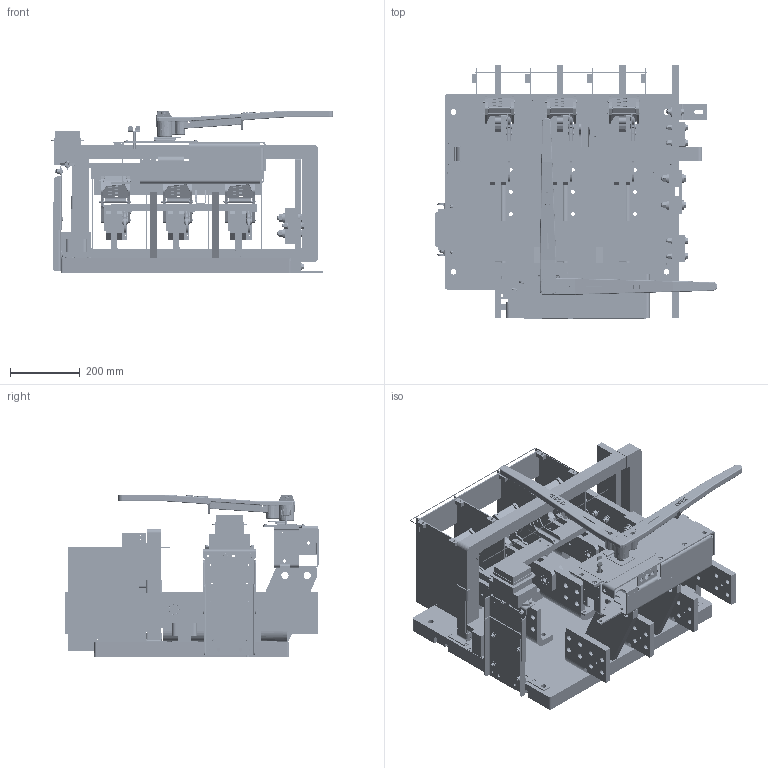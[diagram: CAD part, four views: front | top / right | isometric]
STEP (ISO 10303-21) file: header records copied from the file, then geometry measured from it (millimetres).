
FILE_DESCRIPTION(/* description */ (''),/* implementation_level */ '2;1');
FILE_NAME(/* name */ 'H:\switches\3d-templates\catalog-switches-iges-files\CATALOG-VL3612G6.stp',/* time_stamp */ '2022-03-23T15:35:13-05:00',/* author */ ('MKingston'),/* organization */ (''),/* preprocessor_version */ 'ST-DEVELOPER v18.1',/* originating_system */ 'Autodesk Inventor 2022',/* authorisation */ '');
FILE_SCHEMA (('AUTOMOTIVE_DESIGN { 1 0 10303 214 3 1 1 }'));
Products named in the file (92): vl3612; 277; 671-dx; 671-cx; 671-EX; CATALOG-59-qd-arc-chute-assy; 50-ql; 50-qr; 59-qd-f; 363-a; 363-b; 59-QG; Bolted Connection; ANSI B18.6.3 - 8 - 32 x 3 1/2 SR HMS; ANSI B18.2.2 - 8 - 32, HMSNI; Bolted Connection_1; ANSI B18.6.3 - 8 - 32 x 1/2 SR HMS; Bolted Connection_2; ANSI B18.6.3 - 8 - 32 x 5/8 SR HMS; Bolted Connection_3; Bolted Connection_4; Unbrako - 1/4 x 1 1/2(2); CATALOG-3000amp-blade-assy; 671-A; 671-B; 69-gc3; 67-fc3; 70-M; 67-j; ANSI/ASM B18.1.1 - 1/4 x 3/4; ANSI/ASM B18.1.1 - 3/16 x 11/16; 235-b; 230-a; 255-z; 246-a; 255-bha; 255-c; 178-c; 178-b; 3000-VL-NEUTRAL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
Assembly tree (208 placements, depth 4):
  vl3612
    277
    671-dx  x3
    671-cx  x3
    671-EX  x3
    CATALOG-59-qd-arc-chute-assy  x3
      50-ql
      50-qr
      59-qd-f
      363-a
      363-b
      59-QG
      Bolted Connection
        ANSI B18.6.3 - 8 - 32 x 3 1/2 SR HMS  x2
        ANSI B18.2.2 - 8 - 32, HMSNI  x2
      Bolted Connection_1
        ANSI B18.6.3 - 8 - 32 x 1/2 SR HMS  x2
      Bolted Connection_2
        ANSI B18.6.3 - 8 - 32 x 5/8 SR HMS  x2
      Bolted Connection_3
        Unbrako - 1/4 x 1 1/2(2)
      Bolted Connection_4
        Unbrako - 1/4 x 1 1/2(2)
    CATALOG-3000amp-blade-assy  x3
      671-A
      671-B
      69-gc3
      67-fc3
      67-j
      70-M
      ANSI/ASM B18.1.1 - 1/4 x 3/4
      ANSI/ASM B18.1.1 - 3/16 x 11/16
    235-b
    230-a
    255-bha  x4
    255-z
    246-a  x2
    255-c
    178-c  x8
    178-b  x8
    3000-VL-NEUTRAL
      675-a
      675-gf  x2
      676-l  x4
      677-f  x2
      678-r
      675-ba
      Bolted Connection_5
        ASTM F436 - 1/2, CW  x8
        ANSI B18.2.1 - 1/2-13 UNC - 2.5, HCSI  x4
        ASME B18.21.1 - 1/2, RHSLW  x4
        AS 2465 - 1/2  UNC  x4
      Bolted Connection_6
        ASTM F436 - 3/8, CW  x4
        ANSI B18.2.1 - 3/8-16 UNC - 2.25, HCSI  x4
        ANSI B18.22.1 - 3/8 - Regular - Type B  x4
        ANSI B18.21.1 - 0.375  x4
        ANSI B18.2.2 - 3/8 - 16, HNI  x4
      Bolted Connection_7
        ASTM F436 - 3/8, CW
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Bounding box: 807.21 x 725.27 x 466.29 mm (x, y, z)
Volume: 25116508.8 mm3; surface area: 5247396.9 mm2
Topology: 254 solids, 255 shells, 6443 faces, 15856 edges, 10255 vertices
Faces by surface type: plane 3208, cylinder 1990, cone 953, bspline 153, torus 113, sphere 26
Full cylindrical faces by diameter (mm): 1.702 x8, 3.175 x4, 3.302 x32, 3.581 x2, 3.683 x8, 3.962 x11, 4.089 x4, 4.166 x18, 4.366 x2, 4.496 x24, 4.653 x4, 4.762 x49, 4.775 x8, 4.801 x8, 4.826 x2, 4.902 x14, 4.915 x24, 4.953 x4, 4.978 x15, 5.462 x4, 5.537 x3, 5.556 x5, 5.563 x4, 5.791 x6, 6.35 x29, 6.528 x51, 7.137 x8, 7.144 x20, 7.798 x9, 7.938 x4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
Entity records: 116698 total; most frequent: CARTESIAN_POINT 28552, DIRECTION 17910, ORIENTED_EDGE 17180, EDGE_CURVE 8598, AXIS2_PLACEMENT_3D 6398, VERTEX_POINT 5575, LINE 5114, VECTOR 5114
